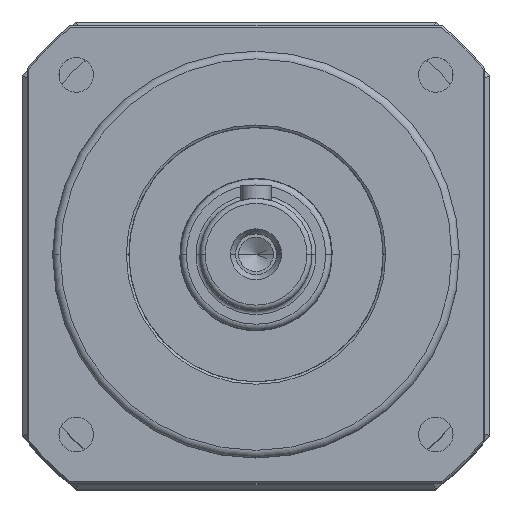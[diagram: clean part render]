
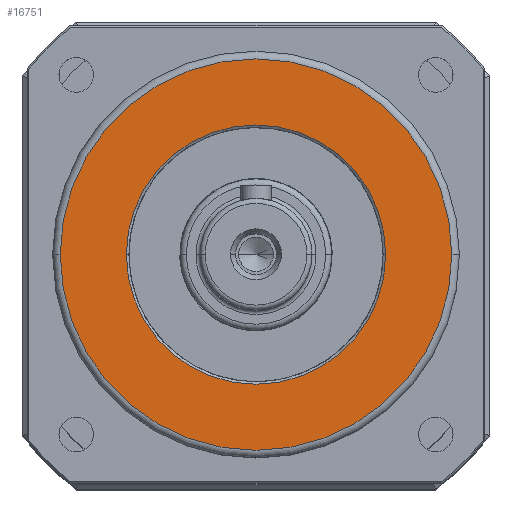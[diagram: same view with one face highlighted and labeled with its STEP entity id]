
A CAD part, top view. The second image highlights one B-rep face of the part: STEP entity #16751.
In plain terms, the highlighted planar face has unit normal (0, 0, 1).
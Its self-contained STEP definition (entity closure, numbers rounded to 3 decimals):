
#1838 = CARTESIAN_POINT ( 'NONE',  ( 38.5, 0., 10. ) ) ;
#1839 = CARTESIAN_POINT ( 'NONE',  ( -38.5, 0., 10. ) ) ;
#1842 = CARTESIAN_POINT ( 'NONE',  ( 25.5, 0., 10. ) ) ;
#1843 = CARTESIAN_POINT ( 'NONE',  ( -25.5, 0., 10. ) ) ;
#7040 = CARTESIAN_POINT ( 'NONE',  ( 0., 0., 10. ) ) ;
#7041 = DIRECTION ( 'NONE',  ( 0., 0., -1. ) ) ;
#7042 = DIRECTION ( 'NONE',  ( 1., 0., 0. ) ) ;
#7043 = CARTESIAN_POINT ( 'NONE',  ( 0., 0., 10. ) ) ;
#7044 = DIRECTION ( 'NONE',  ( 0., 0., 1. ) ) ;
#7045 = DIRECTION ( 'NONE',  ( 1., 0., 0. ) ) ;
#7086 = CIRCLE ( 'NONE', #7111, 38.5 ) ;
#7101 = CIRCLE ( 'NONE', #7109, 25.5 ) ;
#7109 = AXIS2_PLACEMENT_3D ( 'NONE', #7040, #7041, #7042 ) ;
#7111 = AXIS2_PLACEMENT_3D ( 'NONE', #7043, #7044, #7045 ) ;
#7462 = EDGE_CURVE ( 'NONE', #13879, #13880, #12249, .T. ) ;
#7466 = EDGE_CURVE ( 'NONE', #13875, #13876, #12258, .T. ) ;
#9973 = FACE_BOUND ( 'NONE', #17721, .T. ) ;
#9974 = FACE_OUTER_BOUND ( 'NONE', #17724, .T. ) ;
#10898 = AXIS2_PLACEMENT_3D ( 'NONE', #11007, #11008, #11009 ) ;
#11006 = PLANE ( 'NONE',  #10898 ) ;
#11007 = CARTESIAN_POINT ( 'NONE',  ( 0., 0., 10. ) ) ;
#11008 = DIRECTION ( 'NONE',  ( 0., 0., 1. ) ) ;
#11009 = DIRECTION ( 'NONE',  ( 1., 0., 0. ) ) ;
#12249 = CIRCLE ( 'NONE', #12251, 25.5 ) ;
#12251 = AXIS2_PLACEMENT_3D ( 'NONE', #12331, #12332, #12333 ) ;
#12258 = CIRCLE ( 'NONE', #12259, 38.5 ) ;
#12259 = AXIS2_PLACEMENT_3D ( 'NONE', #12342, #12343, #12344 ) ;
#12331 = CARTESIAN_POINT ( 'NONE',  ( 0., 0., 10. ) ) ;
#12332 = DIRECTION ( 'NONE',  ( 0., 0., -1. ) ) ;
#12333 = DIRECTION ( 'NONE',  ( 1., 0., 0. ) ) ;
#12342 = CARTESIAN_POINT ( 'NONE',  ( 0., 0., 10. ) ) ;
#12343 = DIRECTION ( 'NONE',  ( 0., 0., 1. ) ) ;
#12344 = DIRECTION ( 'NONE',  ( 1., 0., 0. ) ) ;
#13875 = VERTEX_POINT ( 'NONE', #1838 ) ;
#13876 = VERTEX_POINT ( 'NONE', #1839 ) ;
#13879 = VERTEX_POINT ( 'NONE', #1842 ) ;
#13880 = VERTEX_POINT ( 'NONE', #1843 ) ;
#14145 = ORIENTED_EDGE ( 'NONE', *, *, #7462, .T. ) ;
#14147 = ORIENTED_EDGE ( 'NONE', *, *, #19357, .T. ) ;
#14148 = ORIENTED_EDGE ( 'NONE', *, *, #19358, .T. ) ;
#14149 = ORIENTED_EDGE ( 'NONE', *, *, #7466, .T. ) ;
#16751 = ADVANCED_FACE ( 'NONE', ( #9973, #9974 ), #11006, .T. ) ;
#17721 = EDGE_LOOP ( 'NONE', ( #14145, #14147 ) ) ;
#17724 = EDGE_LOOP ( 'NONE', ( #14149, #14148 ) ) ;
#19357 = EDGE_CURVE ( 'NONE', #13880, #13879, #7101, .T. ) ;
#19358 = EDGE_CURVE ( 'NONE', #13876, #13875, #7086, .T. ) ;
